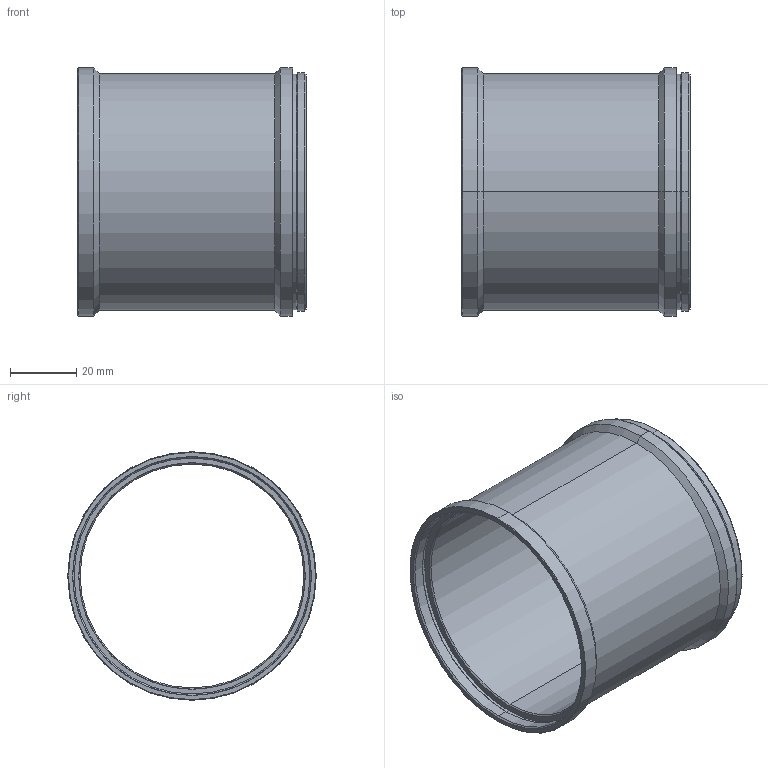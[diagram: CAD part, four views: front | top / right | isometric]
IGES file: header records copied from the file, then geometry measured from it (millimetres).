
Start section: SolidWorks IGES file using analytic representation for surfaces
Global section: file name: C:\Users\sugita_vst\Desktop\AutoCAD恾柺DATA\丒VS-EXR65_M72 (3D儌僨儖) 仯\VS-EXR65_M72.IGS; native system: SolidWorks 2018; preprocessor: SolidWorks 2018; author: sugita_vst; date: 181108.090715; units: millimetre
Bounding box: 68.9 x 75 x 75 mm (x, y, z)
Surface area: 32246 mm2 (no closed solid volume)
Topology: 0 solids, 0 shells, 40 faces, 656 edges, 656 vertices
Faces by surface type: revolution 36, bspline 4
